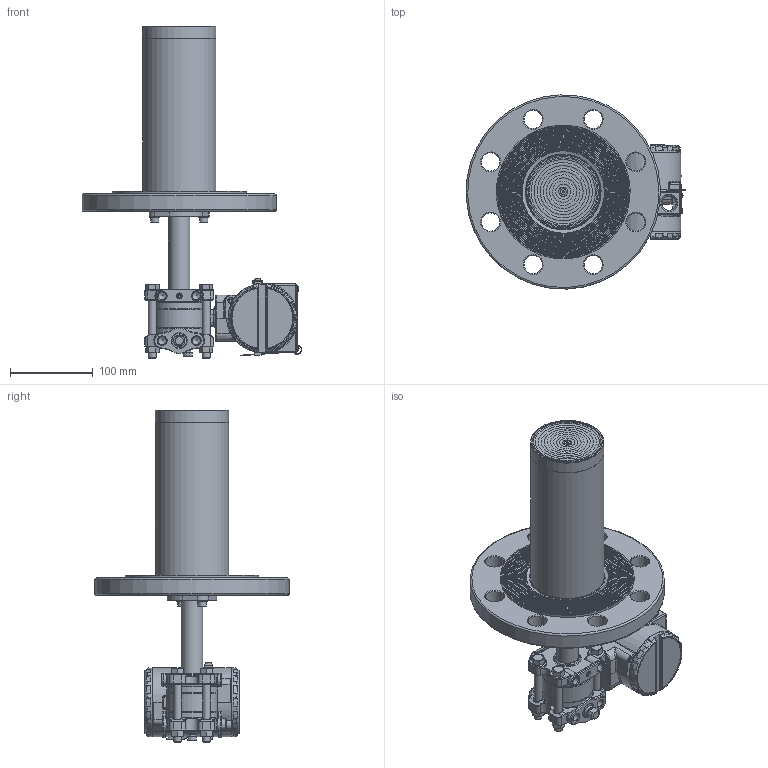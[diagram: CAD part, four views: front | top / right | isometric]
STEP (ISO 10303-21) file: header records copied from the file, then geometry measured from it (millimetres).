
FILE_DESCRIPTION(/* description */ (''),/* implementation_level */ '2;1');
FILE_NAME(/* name */ 'F:\Area\Desenvolvimento_2\Projects\Sensor\projetos\LD30X\montagens 3d - clientes\SELO NIVEL\LD30XL DN100 PN40 RF ext 200 ref 1-4NPT purga acima.stp',/* time_stamp */ '2023-02-15T11:44:24-03:00',/* author */ ('inventor02'),/* organization */ (''),/* preprocessor_version */ 'ST-DEVELOPER v17',/* originating_system */ 'Autodesk Inventor 2019',/* authorisation */ '');
FILE_SCHEMA (('CONFIG_CONTROL_DESIGN','AP203_CONFIGURATION_CONTROLLED_3D_DESIGN_OF_MECHANICAL_PARTS_AND_ASSEMBLIES_MIM_LF { 1 0 10303 203 3 1 4 }'));
Products named in the file (41): LD30XL DN100 PN40 RF ext 200 ref 1-4NPT purga acima; 204-0301-L-DN100 PN40 RF ext 200 purga acima; nivel fx3 com baixa diferencial 1-4NPT purga acima; involucro fx0-3 apos a usinagem final; flange diferencial std purga; 101-C-7484-01 flange selo nivel VR; 201-A-0504-tubo união teste 1; bujao 1-4NPT; Sangria; Porca 3-8 x 16 UNC; Paraf. 3-8 x 16 UNC; adaptação tubo x flanges 1-1-2 a 4pol; 101-B-0161-anel cortado do tubo - teste1; 101-B-0162-flange fixação tubo; ANSI B18.3.1M - M6x1 x 16; DIN 127 - A 6; flange DN100 PN40 ext 200; 096-B-0212-15; 101-B-7702-02 ext 4-200; 101-C-0143-09; carcaça vazia com tampas e plaqueta; carcaça LD inox sem letras; Subconjunto plaqueta 300; Plaqueta transmissor; Parafuso da Plaqueta; Rebite da Plaqueta; 096-A-0169-03; 101-A-0502-01; Chapa aterramento externo; ISO 1207 - M4 x 8; DIN 915 - M6 x 10; ANSI B18.3.1M - M4x0,7 x 8; Subconjunto tampa com visor aluminio; tampa pintada; VIDRO DO VISOR; oring 41x1 vidro tampa; Trava do vidro da tampa com visor; trava do vidro VH256; Subconjunto tampa sem visor-aluminio; tampa cega 300 pintada p0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
Assembly tree (51 placements, depth 4):
  LD30XL DN100 PN40 RF ext 200 ref 1-4NPT purga acima
    204-0301-L-DN100 PN40 RF ext 200 purga acima
      nivel fx3 com baixa diferencial 1-4NPT purga acima
        involucro fx0-3 apos a usinagem final
        flange diferencial std purga
        101-C-7484-01 flange selo nivel VR
        201-A-0504-tubo união teste 1
        DIN 915 - M6 x 10
        bujao 1-4NPT
        Sangria
        Porca 3-8 x 16 UNC  x4
        Paraf. 3-8 x 16 UNC  x4
      adaptação tubo x flanges 1-1-2 a 4pol
        101-B-0161-anel cortado do tubo - teste1
        101-B-0162-flange fixação tubo
        ANSI B18.3.1M - M6x1 x 16  x2
        DIN 127 - A 6  x2
      flange DN100 PN40 ext 200
        096-B-0212-15
        101-B-7702-02 ext 4-200
        101-C-0143-09
    carcaça vazia com tampas e plaqueta
      carcaça LD inox sem letras
      Subconjunto plaqueta 300
        Plaqueta transmissor
        Parafuso da Plaqueta
        Rebite da Plaqueta
        096-A-0169-03
        101-A-0502-01
      Chapa aterramento externo
      ISO 1207 - M4 x 8
      DIN 915 - M6 x 10
      ANSI B18.3.1M - M4x0,7 x 8  x2
      Subconjunto tampa com visor aluminio
        tampa pintada
        VIDRO DO VISOR
        oring 41x1 vidro tampa
        Trava do vidro da tampa com visor
        trava do vidro VH256
        00034775-0
      Subconjunto tampa sem visor-aluminio
        tampa cega 300 pintada p0
        00034775-0
Bounding box: 265.67 x 234.78 x 401.3 mm (x, y, z)
Volume: 1848785.1 mm3; surface area: 481776.5 mm2
Topology: 43 solids, 43 shells, 2802 faces, 6674 edges, 3960 vertices
Faces by surface type: bspline 666, cylinder 660, plane 592, torus 502, cone 256, sphere 126
Full cylindrical faces by diameter (mm): 2 x4, 2.1 x2, 2.459 x5, 2.5 x1, 2.642 x1, 2.7 x1, 2.8 x1, 3 x4, 3.242 x4, 3.5 x5, 3.571 x1, 4 x5, 4.3 x1, 4.4 x1, 4.917 x4, 5 x1, 5.5 x3, 6 x6, 6.647 x1, 7 x7, 7.087 x2, 7.6 x2, 7.798 x4, 8 x1, 8.7 x2, 9.525 x4, 9.728 x6, 10 x2, 10.5 x8, 10.719 x2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
Entity records: 96229 total; most frequent: CARTESIAN_POINT 34885, DIRECTION 12719, ORIENTED_EDGE 12528, EDGE_CURVE 6264, AXIS2_PLACEMENT_3D 5632, VERTEX_POINT 3766, CIRCLE 3340, EDGE_LOOP 2882
